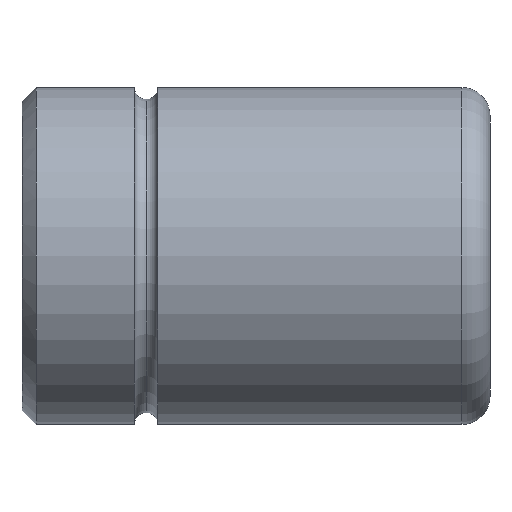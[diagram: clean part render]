
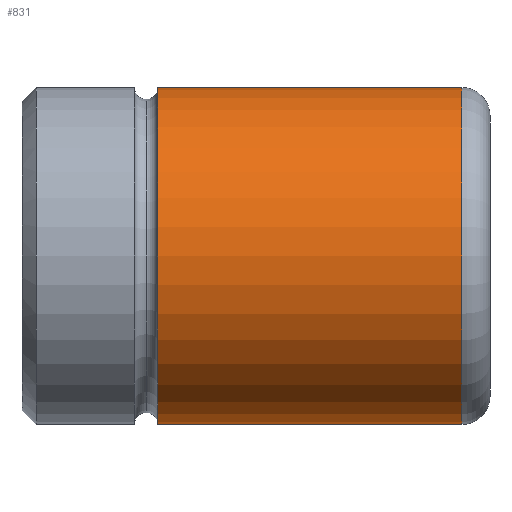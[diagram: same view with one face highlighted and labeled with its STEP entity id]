
A CAD part, front view. The second image highlights one B-rep face of the part: STEP entity #831.
In plain terms, the highlighted cylindrical face has radius 18 mm (diameter 36 mm), a partial arc.
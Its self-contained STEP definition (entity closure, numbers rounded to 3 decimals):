
#647=CARTESIAN_POINT('Vertex',(14.5,0.,18.)) ;
#654=CARTESIAN_POINT('Vertex',(14.5,0.,-18.)) ;
#680=CARTESIAN_POINT('Axis2P3D Location',(14.5,0.,0.)) ;
#684=CARTESIAN_POINT('Vertex',(14.5,-18.,0.)) ;
#687=CARTESIAN_POINT('Axis2P3D Location',(14.5,0.,0.)) ;
#771=CARTESIAN_POINT('Line Origine',(50.,0.,18.)) ;
#775=CARTESIAN_POINT('Vertex',(47.,0.,18.)) ;
#789=CARTESIAN_POINT('Vertex',(47.,0.,-18.)) ;
#792=CARTESIAN_POINT('Line Origine',(50.,0.,-18.)) ;
#806=CARTESIAN_POINT('Axis2P3D Location',(50.,0.,0.)) ;
#811=CARTESIAN_POINT('Axis2P3D Location',(47.,0.,0.)) ;
#815=CARTESIAN_POINT('Vertex',(47.,-18.,0.)) ;
#818=CARTESIAN_POINT('Axis2P3D Location',(47.,0.,0.)) ;
#681=DIRECTION('Axis2P3D Direction',(1.,0.,-0.)) ;
#688=DIRECTION('Axis2P3D Direction',(1.,0.,-0.)) ;
#772=DIRECTION('Vector Direction',(-1.,0.,0.)) ;
#793=DIRECTION('Vector Direction',(-1.,0.,0.)) ;
#807=DIRECTION('Axis2P3D Direction',(-1.,-0.,-0.)) ;
#808=DIRECTION('Axis2P3D XDirection',(0.,0.,-1.)) ;
#812=DIRECTION('Axis2P3D Direction',(-1.,-0.,-0.)) ;
#819=DIRECTION('Axis2P3D Direction',(-1.,-0.,-0.)) ;
#682=AXIS2_PLACEMENT_3D('Circle Axis2P3D',#680,#681,$) ;
#689=AXIS2_PLACEMENT_3D('Circle Axis2P3D',#687,#688,$) ;
#809=AXIS2_PLACEMENT_3D('Cylinder Axis2P3D',#806,#807,#808) ;
#813=AXIS2_PLACEMENT_3D('Circle Axis2P3D',#811,#812,$) ;
#820=AXIS2_PLACEMENT_3D('Circle Axis2P3D',#818,#819,$) ;
#824=ORIENTED_EDGE('',*,*,#796,.T.) ;
#825=ORIENTED_EDGE('',*,*,#817,.F.) ;
#826=ORIENTED_EDGE('',*,*,#822,.F.) ;
#827=ORIENTED_EDGE('',*,*,#777,.T.) ;
#828=ORIENTED_EDGE('',*,*,#691,.T.) ;
#829=ORIENTED_EDGE('',*,*,#686,.T.) ;
#773=VECTOR('Line Direction',#772,1.) ;
#794=VECTOR('Line Direction',#793,1.) ;
#831=ADVANCED_FACE('347-24 x 50',(#830),#810,.T.) ;
#683=CIRCLE('generated circle',#682,18.) ;
#690=CIRCLE('generated circle',#689,18.) ;
#814=CIRCLE('generated circle',#813,18.) ;
#821=CIRCLE('generated circle',#820,18.) ;
#810=CYLINDRICAL_SURFACE('generated cylinder',#809,18.) ;
#686=EDGE_CURVE('',#685,#655,#683,.T.) ;
#691=EDGE_CURVE('',#648,#685,#690,.T.) ;
#777=EDGE_CURVE('',#776,#648,#774,.T.) ;
#796=EDGE_CURVE('',#655,#790,#795,.F.) ;
#817=EDGE_CURVE('',#816,#790,#814,.F.) ;
#822=EDGE_CURVE('',#776,#816,#821,.F.) ;
#823=EDGE_LOOP('',(#824,#825,#826,#827,#828,#829)) ;
#830=FACE_OUTER_BOUND('',#823,.T.) ;
#774=LINE('Line',#771,#773) ;
#795=LINE('Line',#792,#794) ;
#648=VERTEX_POINT('',#647) ;
#655=VERTEX_POINT('',#654) ;
#685=VERTEX_POINT('',#684) ;
#776=VERTEX_POINT('',#775) ;
#790=VERTEX_POINT('',#789) ;
#816=VERTEX_POINT('',#815) ;
